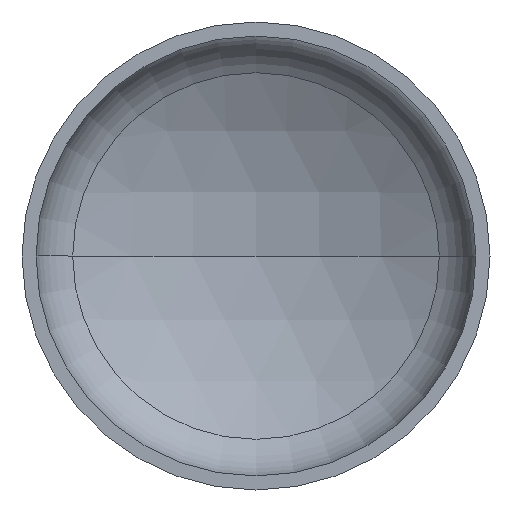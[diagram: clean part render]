
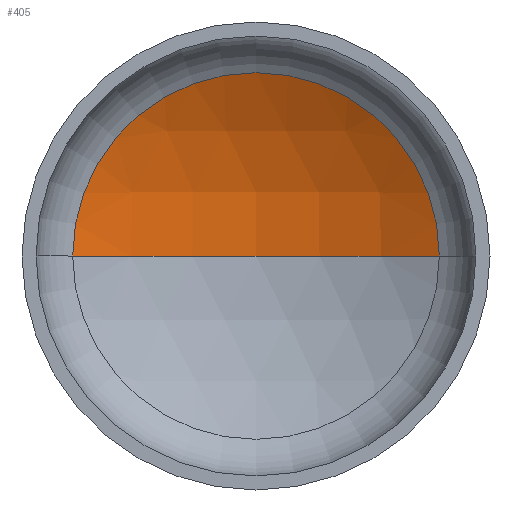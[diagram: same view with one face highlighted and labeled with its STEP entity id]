
A CAD part, front view. The second image highlights one B-rep face of the part: STEP entity #405.
In plain terms, the highlighted spherical face has radius 480 mm.
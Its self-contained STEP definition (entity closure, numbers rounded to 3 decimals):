
#3 = SPHERICAL_SURFACE ( 'NONE', #259, 480. ) ;
#4 = AXIS2_PLACEMENT_3D ( 'NONE', #94, #47, #201 ) ;
#6 = AXIS2_PLACEMENT_3D ( 'NONE', #320, #115, #119 ) ;
#45 = CIRCLE ( 'NONE', #6, 480. ) ;
#47 = DIRECTION ( 'NONE',  ( 0., -1., 0. ) ) ;
#78 = DIRECTION ( 'NONE',  ( 0., 0., -1. ) ) ;
#94 = CARTESIAN_POINT ( 'NONE',  ( 0., 135.214, 0. ) ) ;
#101 = FACE_OUTER_BOUND ( 'NONE', #388, .T. ) ;
#110 = CARTESIAN_POINT ( 'NONE',  ( 0., -283.296, 0. ) ) ;
#113 = CARTESIAN_POINT ( 'NONE',  ( 235.052, 135.214, 0. ) ) ;
#115 = DIRECTION ( 'NONE',  ( 0., 0., -1. ) ) ;
#119 = DIRECTION ( 'NONE',  ( -1., 0., 0. ) ) ;
#135 = CARTESIAN_POINT ( 'NONE',  ( 0., 196.704, 0. ) ) ;
#138 = DIRECTION ( 'NONE',  ( 1., 0., 0. ) ) ;
#162 = CARTESIAN_POINT ( 'NONE',  ( -235.052, 135.214, 0. ) ) ;
#178 = AXIS2_PLACEMENT_3D ( 'NONE', #110, #330, #138 ) ;
#201 = DIRECTION ( 'NONE',  ( 1., 0., 0. ) ) ;
#202 = CIRCLE ( 'NONE', #4, 235.052 ) ;
#236 = ORIENTED_EDGE ( 'NONE', *, *, #339, .T. ) ;
#242 = ORIENTED_EDGE ( 'NONE', *, *, #321, .T. ) ;
#253 = CARTESIAN_POINT ( 'NONE',  ( 0., -283.296, 0. ) ) ;
#259 = AXIS2_PLACEMENT_3D ( 'NONE', #253, #78, #289 ) ;
#288 = VERTEX_POINT ( 'NONE', #162 ) ;
#289 = DIRECTION ( 'NONE',  ( -1., 0., 0. ) ) ;
#320 = CARTESIAN_POINT ( 'NONE',  ( 0., -283.296, 0. ) ) ;
#321 = EDGE_CURVE ( 'NONE', #397, #334, #45, .T. ) ;
#322 = ORIENTED_EDGE ( 'NONE', *, *, #359, .F. ) ;
#330 = DIRECTION ( 'NONE',  ( 0., 0., 1. ) ) ;
#334 = VERTEX_POINT ( 'NONE', #113 ) ;
#339 = EDGE_CURVE ( 'NONE', #334, #288, #202, .T. ) ;
#349 = CIRCLE ( 'NONE', #178, 480. ) ;
#359 = EDGE_CURVE ( 'NONE', #397, #288, #349, .T. ) ;
#388 = EDGE_LOOP ( 'NONE', ( #322, #242, #236 ) ) ;
#397 = VERTEX_POINT ( 'NONE', #135 ) ;
#405 = ADVANCED_FACE ( 'NONE', ( #101 ), #3, .F. ) ;
